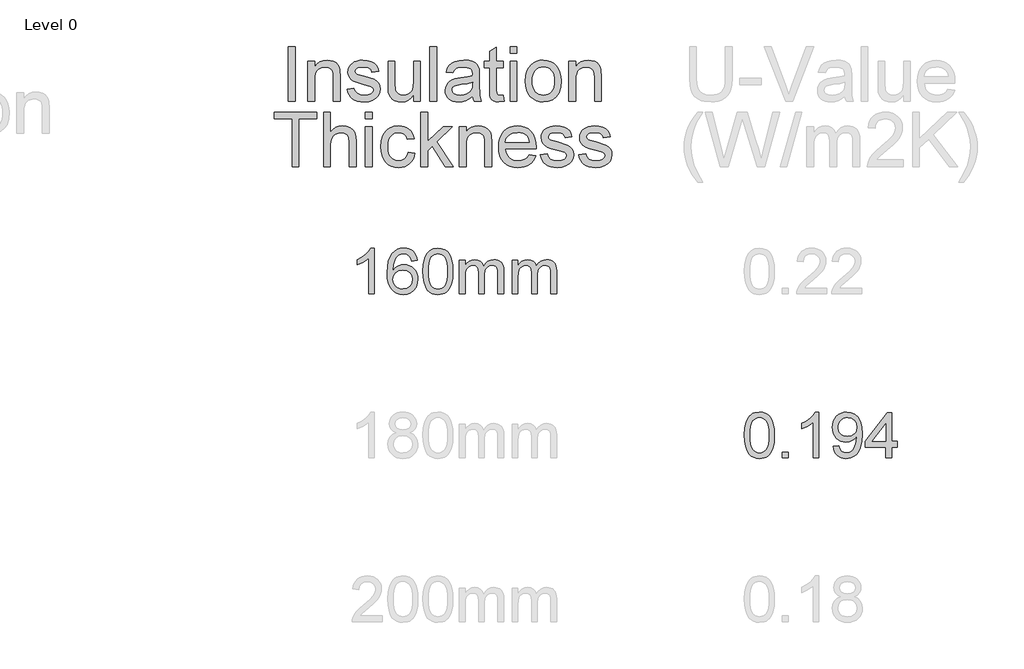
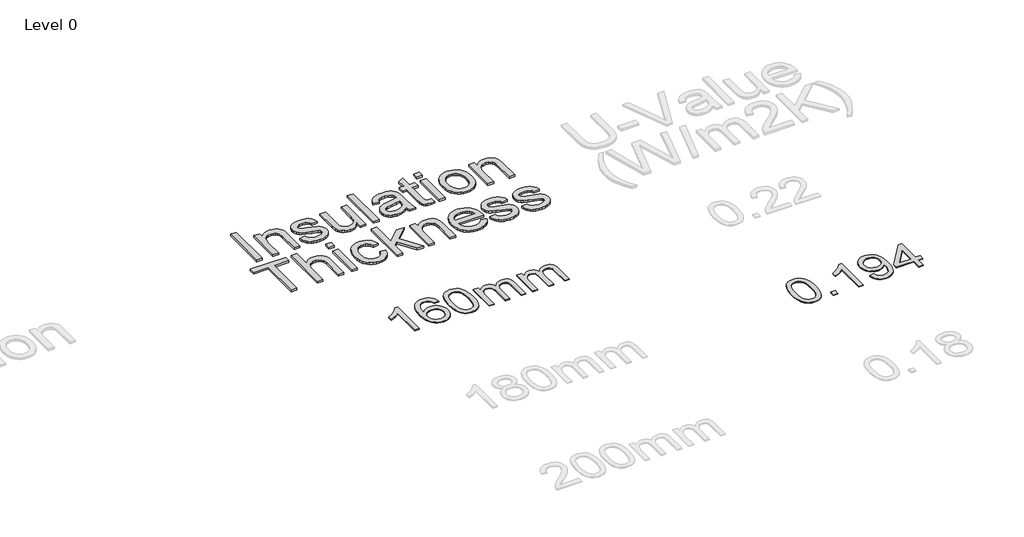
# One storey, part 10 of 11: 3 proxies.
"""IFC4 building model written with IfcOpenShell, lengths in millimetres."""

from ifc_helpers import new_model, si_unit, origin, origin_with_axes, place, context, project, spatial, polyline, outline, extrude, element, save

model = new_model("IFC4")

# Units and contexts
model_context = context("Model", 3, world=origin())
ifc_project = project(units=[si_unit("LENGTHUNIT", "METRE", prefix="MILLI")], contexts=[model_context])

# Site, building, storey
site = spatial("IfcSite", under=ifc_project)
building = spatial("IfcBuilding", under=site)
storey = spatial("IfcBuildingStorey", under=building, Name="Level 0", Elevation=0.0)

# Proxies
placement = place(None, origin())
element("IfcBuildingElementProxy", 1, Name="600mm Arial-400", ObjectType="600mm Arial-400", at=placement, inside=storey, context=model_context, shape_type="SweptSolid", body=[
    extrude(outline(polyline([(34413.7833472, 4261.9346906), (34363.5551921, 4261.9346906), (34363.5551921, 4575.0758449), (34342.5859184, 4558.1164849), (34315.9757874, 4541.1816504), (34263.0988819, 4515.8223182), (34263.0988819, 4563.303621), (34302.5480946, 4584.7634041), (34336.7243319, 4610.2944146), (34363.6655567, 4637.4441058), (34381.4097316, 4663.7599312), (34413.7833472, 4663.7599312), (34413.7833472, 4261.9346906)])), origin_with_axes(), (0.0, 0.0, 1.0), 8.0),
    extrude(outline(polyline([(34790.4945102, 4557.0251017), (34740.2663551, 4550.7465823), (34732.1729513, 4575.6399306), (34721.2345933, 4592.6360788), (34698.450435, 4608.3078518), (34670.9083363, 4613.5317761), (34647.5600924, 4610.4906183), (34625.5852745, 4601.3671448), (34606.7129282, 4582.1514419), (34591.2986726, 4555.7007265), (34580.8876121, 4518.2871276), (34577.0248512, 4466.1827743), (34597.1725218, 4489.6904338), (34621.3178434, 4506.2573863), (34648.1119154, 4516.0798356), (34676.2058371, 4519.3539854), (34700.3388959, 4517.1160365), (34722.6080194, 4510.4021901), (34743.0132074, 4499.2124461), (34761.5544599, 4483.5468045), (34776.9625842, 4464.337233), (34787.9683872, 4442.5156993), (34794.571869, 4418.0822034), (34796.7730296, 4391.0367454), (34792.6282258, 4355.070149), (34780.1938144, 4321.7277775), (34760.4998649, 4293.4499148), (34734.576447, 4272.6768449), (34703.600783, 4259.9113396), (34668.7500953, 4255.6561712), (34638.8075666, 4258.4765998), (34611.7651742, 4266.9378857), (34587.6229183, 4281.0400289), (34566.3807988, 4300.7830293), (34549.0627538, 4327.0007528), (34536.6927217, 4360.5270653), (34529.2707025, 4401.3619668), (34526.7966961, 4449.5054572), (34529.5435483, 4503.4798773), (34537.784105, 4549.5448344), (34551.5183662, 4587.7003287), (34570.7463318, 4617.9463601), (34591.5868468, 4637.9897974), (34615.7505625, 4652.3065384), (34643.2374789, 4660.896583), (34674.047596, 4663.7599312), (34697.1812421, 4661.9879662), (34718.119859, 4656.6720714), (34736.8634467, 4647.8122467), (34753.4120051, 4635.4084921), (34767.3179445, 4619.8777405), (34778.1336752, 4601.6369249), (34785.8591971, 4580.6860453), (34790.4945102, 4557.0251017)]), holes=[polyline([(34577.0248512, 4391.8215604), (34579.9311189, 4369.5646996), (34588.6499222, 4348.3133831), (34602.1879796, 4330.0419106), (34619.5520098, 4316.7245824), (34640.5090208, 4308.5943903), (34664.8260207, 4305.8843263), (34697.9721884, 4311.5006581), (34711.8873249, 4318.5210728), (34724.0304964, 4328.3496535), (34733.8805368, 4340.5878612), (34740.91628, 4354.8371571), (34746.5448745, 4389.3690137), (34740.9898564, 4422.5151815), (34734.0460837, 4436.1360124), (34724.324802, 4447.7886746), (34712.1448423, 4457.1236802), (34697.8250356, 4463.7915413), (34662.7658815, 4469.1258303), (34629.6687647, 4463.7915413), (34601.9917759, 4447.7886746), (34591.0687463, 4436.2892965), (34583.2665823, 4423.1283181), (34578.5852839, 4408.3057394), (34577.0248512, 4391.8215604)])]), origin_with_axes(), (0.0, 0.0, 1.0), 8.0),
    extrude(outline(polyline([(34840.7226653, 4459.6099493), (34844.413748, 4523.9279848), (34855.486996, 4575.2229977), (34873.8320449, 4614.2798028), (34885.6901078, 4629.5131831), (34899.3385299, 4641.8832152), (34914.8232962, 4651.4542785), (34932.190392, 4658.2907522), (34972.5715724, 4663.7599312), (35003.5227109, 4660.5225696), (35031.2364879, 4650.810485), (35054.4130536, 4635.0038219), (35071.7525583, 4613.4827252), (35084.8491573, 4586.4311358), (35095.297006, 4554.0329948), (35102.1396111, 4512.891525), (35104.4204794, 4459.6099493), (35100.766185, 4395.6597958), (35089.8033015, 4344.4874103), (35071.5686173, 4305.393817), (35059.7381454, 4290.1144514), (35046.0989205, 4277.68004), (35030.5957601, 4268.0445974), (35013.1734819, 4261.1621384), (34972.5715724, 4255.6561712), (34944.9068463, 4258.0474042), (34920.38138, 4265.2211031), (34898.9951733, 4277.1772679), (34880.7482264, 4293.9158987), (34863.2370434, 4324.1741928), (34850.7290556, 4361.8759659), (34843.2242629, 4407.0212181), (34840.7226653, 4459.6099493)]), holes=[polyline([(34890.9508204, 4459.7080512), (34892.4223484, 4416.0435241), (34896.8369323, 4380.6992614), (34904.1945722, 4353.6752631), (34914.4952681, 4334.9715294), (34926.954205, 4322.245878), (34940.786568, 4313.1561271), (34955.9923571, 4307.7022765), (34972.5715724, 4305.8843263), (34989.1507876, 4307.7084078), (35004.3565767, 4313.1806525), (35018.1889398, 4322.3010603), (35030.6478767, 4335.0696312), (35040.9485725, 4353.8040218), (35048.3062124, 4380.8218887), (35052.7207964, 4416.1232318), (35054.1923244, 4459.7080512), (35052.7698473, 4502.2168157), (35048.5024162, 4536.9387447), (35041.3900309, 4563.8738381), (35031.4326916, 4583.022096), (35019.1822212, 4596.370081), (35005.1904426, 4605.9043561), (34989.4573559, 4611.6249211), (34971.9829612, 4613.5317761), (34955.4895851, 4611.8517817), (34940.5413133, 4606.8117983), (34927.138146, 4598.4118261), (34915.280083, 4586.651865), (34904.6360306, 4565.8052186), (34897.033136, 4537.6990342), (34892.4713993, 4502.3333117), (34890.9508204, 4459.7080512)])]), origin_with_axes(), (0.0, 0.0, 1.0), 8.0),
    extrude(outline(polyline([(35160.9271539, 4261.9346906), (35160.9271539, 4557.0251017), (35211.155309, 4557.0251017), (35211.155309, 4508.4646783), (35226.2629962, 4530.7705899), (35245.6871656, 4548.2449847), (35268.7656294, 4559.538962), (35294.8362001, 4563.303621), (35322.7707063, 4559.4653856), (35345.1624571, 4547.9506791), (35361.8888251, 4529.5197912), (35372.8271831, 4504.9330111), (35391.1354437, 4530.470153), (35412.0188783, 4548.7109686), (35435.4774869, 4559.6554579), (35461.5112694, 4563.303621), (35481.6190861, 4561.7861078), (35499.2682249, 4557.2335681), (35514.4586856, 4549.646002), (35527.1904683, 4539.0234094), (35537.2551065, 4525.243163), (35544.4441339, 4508.1826354), (35548.7575503, 4487.8418268), (35550.1953557, 4464.220737), (35550.1953557, 4261.9346906), (35499.9672007, 4261.9346906), (35499.9672007, 4442.6383266), (35498.802241, 4467.6910905), (35495.307362, 4484.5768741), (35488.7590625, 4496.1406315), (35478.4338412, 4505.2273167), (35465.1533012, 4511.1134287), (35449.7390456, 4513.075466), (35422.5280407, 4508.0477454), (35400.3447564, 4492.9645836), (35391.7393834, 4481.3946948), (35385.5926884, 4466.795911), (35380.6753323, 4428.511658), (35380.6753323, 4261.9346906), (35330.4471773, 4261.9346906), (35330.4471773, 4448.2301329), (35327.5409095, 4476.630623), (35318.8221062, 4496.8886582), (35303.481427, 4509.028764), (35280.7095315, 4513.075466), (35261.3589386, 4510.3776647), (35243.5289245, 4502.2842608), (35228.8136447, 4488.991458), (35218.8072545, 4470.6954601), (35213.0682953, 4445.3116025), (35211.155309, 4410.7552204), (35211.155309, 4261.9346906), (35160.9271539, 4261.9346906)])), origin_with_axes(), (0.0, 0.0, 1.0), 8.0),
    extrude(outline(polyline([(35625.5375883, 4261.9346906), (35625.5375883, 4557.0251017), (35675.7657434, 4557.0251017), (35675.7657434, 4508.4646783), (35690.8734307, 4530.7705899), (35710.2976, 4548.2449847), (35733.3760639, 4559.538962), (35759.4466346, 4563.303621), (35787.3811408, 4559.4653856), (35809.7728915, 4547.9506791), (35826.4992596, 4529.5197912), (35837.4376176, 4504.9330111), (35855.7458782, 4530.470153), (35876.6293128, 4548.7109686), (35900.0879213, 4559.6554579), (35926.1217039, 4563.303621), (35946.2295206, 4561.7861078), (35963.8786593, 4557.2335681), (35979.06912, 4549.646002), (35991.8009027, 4539.0234094), (36001.865541, 4525.243163), (36009.0545683, 4508.1826354), (36013.3679847, 4487.8418268), (36014.8057902, 4464.220737), (36014.8057902, 4261.9346906), (35964.5776351, 4261.9346906), (35964.5776351, 4442.6383266), (35963.4126754, 4467.6910905), (35959.9177965, 4484.5768741), (35953.369497, 4496.1406315), (35943.0442756, 4505.2273167), (35929.7637356, 4511.1134287), (35914.34948, 4513.075466), (35887.1384751, 4508.0477454), (35864.9551908, 4492.9645836), (35856.3498178, 4481.3946948), (35850.2031228, 4466.795911), (35845.2857668, 4428.511658), (35845.2857668, 4261.9346906), (35795.0576117, 4261.9346906), (35795.0576117, 4448.2301329), (35792.151344, 4476.630623), (35783.4325407, 4496.8886582), (35768.0918615, 4509.028764), (35745.319966, 4513.075466), (35725.969373, 4510.3776647), (35708.139359, 4502.2842608), (35693.4240792, 4488.991458), (35683.4176889, 4470.6954601), (35677.6787298, 4445.3116025), (35675.7657434, 4410.7552204), (35675.7657434, 4261.9346906), (35625.5375883, 4261.9346906)])), origin_with_axes(), (0.0, 0.0, 1.0), 8.0),
])
element("IfcBuildingElementProxy", 2, Name="600mm Arial-400", ObjectType="600mm Arial-400", at=placement, inside=storey, context=model_context, shape_type="SweptSolid", body=[
    extrude(outline(polyline([(37665.4277656, 3019.6099493), (37669.1188483, 3083.9279848), (37680.1920964, 3135.2229977), (37698.5371452, 3174.2798028), (37710.3952082, 3189.5131831), (37724.0436302, 3201.8832152), (37739.5283965, 3211.4542785), (37756.8954924, 3218.2907522), (37797.2766727, 3223.7599312), (37828.2278112, 3220.5225696), (37855.9415882, 3210.810485), (37879.1181539, 3195.0038219), (37896.4576586, 3173.4827252), (37909.5542576, 3146.4311358), (37920.0021063, 3114.0329948), (37926.8447114, 3072.891525), (37929.1255798, 3019.6099493), (37925.4712853, 2955.6597958), (37914.5084018, 2904.4874103), (37896.2737176, 2865.393817), (37884.4432458, 2850.1144514), (37870.8040208, 2837.68004), (37855.3008604, 2828.0445974), (37837.8785822, 2821.1621384), (37797.2766727, 2815.6561712), (37769.6119467, 2818.0474042), (37745.0864803, 2825.2211031), (37723.7002737, 2837.1772679), (37705.4533267, 2853.9158987), (37687.9421437, 2884.1741928), (37675.4341559, 2921.8759659), (37667.9293632, 2967.0212181), (37665.4277656, 3019.6099493)]), holes=[polyline([(37715.6559207, 3019.7080512), (37717.1274487, 2976.0435241), (37721.5420326, 2940.6992614), (37728.8996725, 2913.6752631), (37739.2003684, 2894.9715294), (37751.6593053, 2882.245878), (37765.4916683, 2873.1561271), (37780.6974575, 2867.7022765), (37797.2766727, 2865.8843263), (37813.8558879, 2867.7084078), (37829.0616771, 2873.1806525), (37842.8940401, 2882.3010603), (37855.352977, 2895.0696312), (37865.6536729, 2913.8040218), (37873.0113128, 2940.8218887), (37877.4258967, 2976.1232318), (37878.8974247, 3019.7080512), (37877.4749476, 3062.2168157), (37873.2075165, 3096.9387447), (37866.0951313, 3123.8738381), (37856.1377919, 3143.022096), (37843.8873215, 3156.370081), (37829.8955429, 3165.9043561), (37814.1624563, 3171.6249211), (37796.6880615, 3173.5317761), (37780.1946854, 3171.8517817), (37765.2464137, 3166.8117983), (37751.8432463, 3158.4118261), (37739.9851833, 3146.651865), (37729.3411309, 3125.8052186), (37721.7382364, 3097.6990342), (37717.1764996, 3062.3333117), (37715.6559207, 3019.7080512)])]), origin_with_axes(), (0.0, 0.0, 1.0), 8.0),
    extrude(outline(polyline([(37998.189293, 2821.9346906), (37998.189293, 2872.1628457), (38048.4174481, 2872.1628457), (38048.4174481, 2821.9346906), (37998.189293, 2821.9346906)])), origin_with_axes(), (0.0, 0.0, 1.0), 8.0),
    extrude(outline(polyline([(38318.3937816, 2821.9346906), (38268.1656265, 2821.9346906), (38268.1656265, 3135.0758449), (38247.1963528, 3118.1164849), (38220.5862218, 3101.1816504), (38167.7093164, 3075.8223182), (38167.7093164, 3123.303621), (38207.158529, 3144.7634041), (38241.3347663, 3170.2944146), (38268.2759911, 3197.4441058), (38286.020166, 3223.7599312), (38318.3937816, 3223.7599312), (38318.3937816, 2821.9346906)])), origin_with_axes(), (0.0, 0.0, 1.0), 8.0),
    extrude(outline(polyline([(38443.9641693, 2922.3910007), (38494.1923244, 2928.6695201), (38502.7762376, 2900.1586655), (38516.7557534, 2880.7467589), (38535.7875153, 2869.5999344), (38559.5281667, 2865.8843263), (38580.8285342, 2868.2755593), (38600.1913899, 2875.4492582), (38616.2800958, 2886.6206081), (38627.7580141, 2901.0047941), (38644.1900765, 2944.6601242), (38649.6347301, 2973.0606142), (38651.4496146, 3002.9326322), (38651.155309, 3012.7428188), (38633.7544906, 2991.5037649), (38610.9825951, 2974.679295), (38584.4828287, 2963.7164115), (38555.8983977, 2960.062117), (38532.0381846, 2962.2939345), (38510.0970893, 2968.9893868), (38490.0751117, 2980.148474), (38471.9722519, 2995.771196), (38456.9718635, 3015.0420812), (38446.2573004, 3037.1456578), (38439.8285625, 3062.0819257), (38437.6856499, 3089.8508849), (38439.9327958, 3118.5456806), (38446.6742333, 3144.2974202), (38457.9099626, 3167.1061039), (38473.6399836, 3186.9717317), (38492.7545189, 3203.066569), (38514.1437912, 3214.5628813), (38537.8078006, 3221.4606687), (38563.7465469, 3223.7599312), (38601.2091968, 3218.5114814), (38635.3118577, 3202.766132), (38663.8349751, 3177.3086979), (38684.5589941, 3142.9239941), (38697.1773466, 3095.3936403), (38701.383464, 3030.4992564), (38697.1896093, 2961.6930606), (38684.6080451, 2908.5095868), (38663.7491359, 2868.5453394), (38650.2570638, 2852.6191147), (38634.7232465, 2839.3968226), (38617.4603839, 2829.0102876), (38598.7811756, 2821.5913341), (38557.1737219, 2815.6561712), (38534.6164243, 2817.4066764), (38514.2296304, 2822.6581918), (38496.0133402, 2831.4107177), (38479.9675539, 2843.6642538), (38466.4969415, 2859.0877064), (38456.0061733, 2877.3499818), (38448.4952492, 2898.4510799), (38443.9641693, 2922.3910007)]), holes=[polyline([(38651.155309, 3091.0281073), (38645.7351809, 3125.0694546), (38638.9600208, 3139.1470723), (38629.4747967, 3151.2626527), (38617.7454924, 3161.0053942), (38604.2380919, 3167.9644953), (38571.8890017, 3173.5317761), (38554.2797169, 3172.032657), (38538.3381638, 3167.5352996), (38524.0643424, 3160.0397039), (38511.4582527, 3149.54587), (38501.1575568, 3136.6669345), (38493.7999169, 3122.0160341), (38489.385333, 3105.5931687), (38487.913805, 3087.3983383), (38493.4810858, 3056.3613607), (38500.4401869, 3043.2433018), (38510.1829284, 3031.7255297), (38522.3046402, 3022.3476045), (38536.4006519, 3015.6490865), (38570.5155756, 3010.2902721), (38602.6071483, 3015.6490865), (38628.4447271, 3031.7255297), (38638.3806067, 3043.4701624), (38645.4776635, 3057.2688029), (38651.155309, 3091.0281073)])]), origin_with_axes(), (0.0, 0.0, 1.0), 8.0),
    extrude(outline(polyline([(38908.5746037, 2821.9346906), (38908.5746037, 2916.1124814), (38726.4975416, 2916.1124814), (38726.4975416, 2966.3406364), (38921.1316425, 3217.4814118), (38958.8027588, 3217.4814118), (38958.8027588, 2966.3406364), (39009.0309139, 2966.3406364), (39009.0309139, 2916.1124814), (38958.8027588, 2916.1124814), (38958.8027588, 2821.9346906), (38908.5746037, 2821.9346906)]), holes=[polyline([(38908.5746037, 2966.3406364), (38908.5746037, 3121.5377875), (38788.3017168, 2966.3406364), (38908.5746037, 2966.3406364)])]), origin_with_axes(), (0.0, 0.0, 1.0), 8.0),
])
element("IfcBuildingElementProxy", 3, Name="Arial-500 Blanco", ObjectType="Arial-500 Blanco", at=placement, inside=storey, context=model_context, shape_type="SweptSolid", body=[
    extrude(outline(polyline([(33657.5631659, 5955.3857513), (33657.5631659, 6435.0189703), (33717.5173183, 6435.0189703), (33717.5173183, 5955.3857513), (33657.5631659, 5955.3857513)])), origin_with_axes(), (0.0, 0.0, 1.0), 20.0),
    extrude(outline(polyline([(33829.931354, 5955.3857513), (33829.931354, 6307.6163965), (33889.8855064, 6307.6163965), (33889.8855064, 6258.4352559), (33910.7143049, 6283.2307476), (33935.7293553, 6300.9418131), (33964.9306576, 6311.5684525), (33998.3182117, 6315.1106656), (34027.8708078, 6312.2564029), (34054.9350723, 6303.6936151), (34077.5057029, 6290.4908208), (34093.5773971, 6273.7165389), (34104.4821441, 6253.4146811), (34111.551933, 6229.6291592), (34114.7135778, 6171.6656721), (34114.7135778, 5955.3857513), (34054.7594254, 5955.3857513), (34054.7594254, 6163.5859133), (34053.0322306, 6194.5875965), (34047.8506461, 6216.6312864), (34038.2925256, 6232.4248729), (34023.4357228, 6244.6762463), (34004.392668, 6252.5364465), (33982.275792, 6255.1565132), (33947.1610431, 6249.272341), (33931.5467628, 6241.9171258), (33917.2278786, 6231.6198245), (33905.2655908, 6217.2094575), (33896.7210994, 6197.5150454), (33891.5944046, 6172.5365881), (33889.8855064, 6142.2740857), (33889.8855064, 5955.3857513), (33829.931354, 5955.3857513)])), origin_with_axes(), (0.0, 0.0, 1.0), 20.0),
    extrude(outline(polyline([(34174.6677302, 6060.305518), (34234.6218825, 6067.799787), (34244.0775423, 6042.1553351), (34262.3740976, 6023.3025645), (34289.6286464, 6011.7098671), (34325.9582865, 6007.8456346), (34361.8488094, 6011.3878477), (34387.0834185, 6022.014487), (34402.0134076, 6037.412868), (34406.9900706, 6055.2703059), (34401.9841331, 6070.5515889), (34386.9663205, 6082.2028353), (34325.2556988, 6099.2991366), (34270.5416799, 6115.1219976), (34234.9731764, 6128.632174), (34212.1244382, 6143.371879), (34195.5697149, 6162.8833255), (34185.5139281, 6185.922348), (34182.1619992, 6211.2447805), (34184.8552521, 6234.4740871), (34192.935011, 6255.9176499), (34205.6694134, 6274.7265087), (34222.3265974, 6290.0517034), (34238.8813206, 6299.6976474), (34260.4419814, 6307.7920434), (34285.3692083, 6313.28101), (34312.02363, 6315.1106656), (34351.0465232, 6312.1685795), (34384.9756553, 6303.3423212), (34412.2594785, 6289.4954881), (34431.346445, 6271.4916777), (34443.993024, 6247.9989007), (34451.9556849, 6217.6851679), (34392.0015325, 6210.1908989), (34384.4340773, 6229.0583067), (34369.4601764, 6243.2710709), (34346.9334575, 6252.1851526), (34316.7075482, 6255.1565132), (34282.2807498, 6252.3168878), (34259.3295508, 6243.7980117), (34246.4195014, 6231.5027265), (34242.1161516, 6217.3338741), (34243.9018954, 6208.1124102), (34249.2591268, 6199.886279), (34258.4220417, 6192.5383824), (34271.624836, 6186.6542102), (34323.2650336, 6173.8905332), (34411.2641459, 6145.6699263), (34434.5080898, 6132.1743871), (34452.1313318, 6113.7021849), (34463.2410002, 6090.1947707), (34466.944223, 6061.5935955), (34462.5969615, 6032.0263621), (34449.5551768, 6004.2155981), (34428.3165355, 5980.3422527), (34399.3787036, 5962.5872755), (34364.4249644, 5951.5654306), (34325.1386009, 5947.8914823), (34292.870796, 5949.6625888), (34264.6867822, 5954.9759085), (34240.5865596, 5963.8314412), (34220.5701281, 5976.2291871), (34204.2203263, 5992.1105971), (34191.1199927, 6011.4171222), (34181.2691273, 6034.1487625), (34174.6677302, 6060.305518)])), origin_with_axes(), (0.0, 0.0, 1.0), 20.0),
    extrude(outline(polyline([(34759.2207158, 5955.3857513), (34759.2207158, 6015.9253934), (34737.5283199, 5986.1605573), (34712.2644363, 5964.8999601), (34683.4290652, 5952.1436017), (34651.0222065, 5947.8914823), (34621.8209042, 5950.8774801), (34594.6395417, 5959.8354735), (34571.8347152, 5973.3017382), (34555.763021, 5989.8125497), (34544.9460975, 6009.8655743), (34537.905583, 6033.9584783), (34534.3926444, 6089.6971044), (34534.3926444, 6307.6163965), (34594.3467968, 6307.6163965), (34594.3467968, 6117.9177113), (34597.9768334, 6056.7925793), (34606.7152682, 6036.4028981), (34621.689169, 6020.9020565), (34641.9032033, 6011.1097401), (34666.3620384, 6007.8456346), (34692.226049, 6011.1829263), (34716.4214137, 6021.1948014), (34736.3719776, 6036.9591134), (34749.5015857, 6057.553716), (34756.7909333, 6085.7596857), (34759.2207158, 6124.3580987), (34759.2207158, 6307.6163965), (34819.1748682, 6307.6163965), (34819.1748682, 5955.3857513), (34759.2207158, 5955.3857513)])), origin_with_axes(), (0.0, 0.0, 1.0), 20.0),
    extrude(outline(polyline([(34901.6118277, 5955.3857513), (34901.6118277, 6435.0189703), (34961.5659801, 6435.0189703), (34961.5659801, 5955.3857513), (34901.6118277, 5955.3857513)])), origin_with_axes(), (0.0, 0.0, 1.0), 20.0),
    extrude(outline(polyline([(35276.3252801, 6000.3513656), (35247.6801931, 5975.7900698), (35218.186146, 5959.7183756), (35187.1698254, 5950.8482056), (35153.9579183, 5947.8914823), (35127.2632441, 5949.6699074), (35103.8546313, 5955.005183), (35083.7320798, 5963.8973088), (35066.8955896, 5976.346285), (35053.6013125, 5991.5617004), (35044.1054003, 6008.7531438), (35038.407853, 6027.9206151), (35036.5086706, 6049.0641144), (35039.3775704, 6073.9181551), (35047.98427, 6096.4887857), (35061.2602506, 6115.8099481), (35078.1369932, 6130.9155841), (35097.9704591, 6142.3326346), (35120.1166096, 6150.5880404), (35171.9910032, 6159.6045828), (35233.291782, 6169.0895171), (35275.9739862, 6180.2138227), (35276.3252801, 6193.5629894), (35272.1975772, 6220.3198719), (35259.8144686, 6237.826016), (35232.1208025, 6250.8238889), (35193.5370267, 6255.1565132), (35157.8221508, 6252.2729761), (35132.8802866, 6243.6223647), (35115.8718088, 6227.6238568), (35103.957092, 6202.6966299), (35044.0029396, 6210.1908989), (35054.4100203, 6242.978326), (35069.9401364, 6268.7398758), (35092.0423752, 6288.4416066), (35122.1658238, 6303.0495763), (35159.0077675, 6312.0953932), (35201.2654916, 6315.1106656), (35241.7960209, 6312.4466871), (35273.924772, 6304.4547518), (35298.1494112, 6292.4375742), (35314.9676048, 6277.6978693), (35326.1211849, 6259.4745002), (35333.3519836, 6237.0063303), (35336.2794324, 6184.546447), (35336.2794324, 6109.9550504), (35339.3239792, 6005.7964204), (35351.2679705, 5955.3857513), (35291.3138182, 5955.3857513), (35281.7117859, 5976.2291871), (35276.3252801, 6000.3513656)]), holes=[polyline([(35276.3252801, 6120.2596703), (35236.0435839, 6110.2770698), (35179.6023702, 6101.8752916), (35128.0207215, 6092.1561614), (35114.5983685, 6085.5108525), (35104.6596797, 6076.3479376), (35098.5120371, 6065.3700045), (35096.4628229, 6053.2796407), (35100.9271824, 6035.4514773), (35114.3202609, 6020.8435075), (35136.3493135, 6011.0951028), (35166.7215953, 6007.8456346), (35198.9235326, 6011.4317595), (35227.3783354, 6022.190134), (35250.4466323, 6038.0422695), (35266.4890519, 6056.9096773), (35273.6027526, 6076.3479376), (35275.9739862, 6103.280467), (35276.3252801, 6120.2596703)])]), origin_with_axes(), (0.0, 0.0, 1.0), 20.0),
    extrude(outline(polyline([(35546.1189658, 6005.3865776), (35553.6132348, 5953.629282), (35508.7647185, 5947.8914823), (35479.9878963, 5950.3798138), (35458.5296963, 5957.8448083), (35443.3655112, 5969.3496823), (35433.4707341, 5983.957652), (35428.0256793, 6009.0458887), (35426.210661, 6051.9915632), (35426.210661, 6247.6622441), (35381.2450467, 6247.6622441), (35381.2450467, 6307.6163965), (35426.210661, 6307.6163965), (35426.210661, 6393.2150008), (35486.1648134, 6428.4614849), (35486.1648134, 6307.6163965), (35546.1189658, 6307.6163965), (35546.1189658, 6247.6622441), (35486.1648134, 6247.6622441), (35486.1648134, 6053.7480325), (35489.3264581, 6022.8341727), (35499.5725291, 6011.885514), (35520.006122, 6007.8456346), (35546.1189658, 6005.3865776)])), origin_with_axes(), (0.0, 0.0, 1.0), 20.0),
    extrude(outline(polyline([(35606.0731181, 6375.0648179), (35606.0731181, 6435.0189703), (35666.0272705, 6435.0189703), (35666.0272705, 6375.0648179), (35606.0731181, 6375.0648179)])), origin_with_axes(), (0.0, 0.0, 1.0), 20.0),
    extrude(outline(polyline([(35606.0731181, 5955.3857513), (35606.0731181, 6307.6163965), (35666.0272705, 6307.6163965), (35666.0272705, 5955.3857513), (35606.0731181, 5955.3857513)])), origin_with_axes(), (0.0, 0.0, 1.0), 20.0),
    extrude(outline(polyline([(35740.969961, 6131.5010739), (35744.2121106, 6177.1180456), (35753.9385594, 6216.4263649), (35770.1493074, 6249.4260321), (35792.8443545, 6276.1170469), (35815.6930928, 6293.1767551), (35840.9130646, 6305.3622609), (35868.50427, 6312.6735644), (35898.4667089, 6315.1106656), (35931.5432216, 6312.1429643), (35961.4507708, 6303.2398605), (35988.1893567, 6288.4013541), (36011.7589793, 6267.6274453), (36030.9959775, 6241.6207216), (36044.7366905, 6211.0837708), (36052.9811183, 6176.0165929), (36055.7292609, 6136.419188), (36050.8696959, 6075.8502713), (36044.7952395, 6050.988912), (36036.2910006, 6029.742952), (36012.4176553, 5995.2136929), (35979.6741399, 5969.3789568), (35940.782982, 5953.2633509), (35898.4667089, 5947.8914823), (35864.9071672, 5950.8482056), (35834.7215103, 5959.7183756), (35807.9097382, 5974.5019923), (35784.4718508, 5995.1990556), (35765.439774, 6021.4582718), (35751.8454334, 6052.9283469), (35743.6888291, 6089.6092809), (35740.969961, 6131.5010739)]), holes=[polyline([(35800.9241134, 6131.6181719), (35802.6586268, 6102.5376269), (35807.8621671, 6077.3579075), (35816.5347343, 6056.0790137), (35828.6763284, 6038.7009455), (35843.4453078, 6025.201747), (35860.0000311, 6015.5594623), (35878.3404981, 6009.7740916), (35898.4667089, 6007.8456346), (35918.490459, 6009.7850695), (35936.7577398, 6015.6033741), (35953.2685513, 6025.3005484), (35968.0228935, 6038.8765924), (35980.1644876, 6056.4266482), (35988.8370548, 6078.045858), (35994.0405951, 6103.7342216), (35995.7751086, 6133.4917391), (35994.0296172, 6161.6501377), (35988.7931431, 6186.1711811), (35980.0656862, 6207.0548693), (35967.8472466, 6224.3012023), (35953.0380147, 6237.8004008), (35936.5381812, 6247.4426855), (35918.3477459, 6253.2280563), (35898.4667089, 6255.1565132), (35878.3404981, 6253.2353749), (35860.0000311, 6247.47196), (35843.4453078, 6237.8662684), (35828.6763284, 6224.4183003), (35816.5347343, 6207.0914624), (35807.8621671, 6185.8491617), (35802.6586268, 6160.6913982), (35800.9241134, 6131.6181719)])]), origin_with_axes(), (0.0, 0.0, 1.0), 20.0),
    extrude(outline(polyline([(36123.1776824, 5955.3857513), (36123.1776824, 6307.6163965), (36183.1318347, 6307.6163965), (36183.1318347, 6258.4352559), (36203.9606333, 6283.2307476), (36228.9756837, 6300.9418131), (36258.1769859, 6311.5684525), (36291.56454, 6315.1106656), (36321.1171361, 6312.2564029), (36348.1814007, 6303.6936151), (36370.7520313, 6290.4908208), (36386.8237255, 6273.7165389), (36397.7284724, 6253.4146811), (36404.7982614, 6229.6291592), (36407.9599062, 6171.6656721), (36407.9599062, 5955.3857513), (36348.0057538, 5955.3857513), (36348.0057538, 6163.5859133), (36346.278559, 6194.5875965), (36341.0969745, 6216.6312864), (36331.538854, 6232.4248729), (36316.6820511, 6244.6762463), (36297.6389964, 6252.5364465), (36275.5221203, 6255.1565132), (36240.4073714, 6249.272341), (36224.7930911, 6241.9171258), (36210.474207, 6231.6198245), (36198.5119191, 6217.2094575), (36189.9674278, 6197.5150454), (36184.840733, 6172.5365881), (36183.1318347, 6142.2740857), (36183.1318347, 5955.3857513), (36123.1776824, 5955.3857513)])), origin_with_axes(), (0.0, 0.0, 1.0), 20.0),
    extrude(outline(polyline([(33691.2873766, 5378.9248626), (33691.2873766, 5798.6039292), (33533.9077266, 5798.6039292), (33533.9077266, 5858.5580816), (33908.621179, 5858.5580816), (33908.621179, 5798.6039292), (33751.241529, 5798.6039292), (33751.241529, 5378.9248626), (33691.2873766, 5378.9248626)])), origin_with_axes(), (0.0, 0.0, 1.0), 20.0),
    extrude(outline(polyline([(33968.5753314, 5378.9248626), (33968.5753314, 5858.5580816), (34028.5294837, 5858.5580816), (34028.5294837, 5682.2085631), (34050.5512177, 5706.9015941), (34075.2808418, 5724.5394734), (34102.7183561, 5735.122201), (34132.8637606, 5738.6497768), (34169.0763029, 5734.8001816), (34200.1950841, 5723.2513959), (34224.6978309, 5704.9109289), (34241.06227, 5680.6862897), (34250.2837339, 5647.4011963), (34253.3575552, 5601.8793667), (34253.3575552, 5378.9248626), (34193.4034028, 5378.9248626), (34193.4034028, 5595.6731752), (34188.6316612, 5633.2030694), (34182.6669841, 5647.5329315), (34174.3164363, 5658.9060703), (34151.2481394, 5673.7482359), (34120.2171816, 5678.6956245), (34094.8801119, 5675.3583328), (34071.09459, 5665.3464577), (34051.3928592, 5649.6260574), (34038.3071629, 5629.16319), (34030.9739035, 5601.9671902), (34028.5294837, 5566.0473928), (34028.5294837, 5378.9248626), (33968.5753314, 5378.9248626)])), origin_with_axes(), (0.0, 0.0, 1.0), 20.0),
    extrude(outline(polyline([(34335.7945147, 5798.6039292), (34335.7945147, 5858.5580816), (34395.748667, 5858.5580816), (34395.748667, 5798.6039292), (34335.7945147, 5798.6039292)])), origin_with_axes(), (0.0, 0.0, 1.0), 20.0),
    extrude(outline(polyline([(34335.7945147, 5378.9248626), (34335.7945147, 5731.1555078), (34395.748667, 5731.1555078), (34395.748667, 5378.9248626), (34335.7945147, 5378.9248626)])), origin_with_axes(), (0.0, 0.0, 1.0), 20.0),
    extrude(outline(polyline([(34710.507967, 5506.3274364), (34770.4621194, 5498.8331673), (34763.9412271, 5470.5430335), (34753.7463865, 5445.5096866), (34739.8775976, 5423.7331265), (34722.3348604, 5405.2133532), (34701.8573557, 5390.4333959), (34679.1842644, 5379.8762835), (34654.3155864, 5373.542016), (34627.2513218, 5371.4305935), (34593.6259125, 5374.3763389), (34563.4768487, 5383.2135751), (34536.8041304, 5397.9423021), (34513.6077576, 5418.56252), (34494.8318326, 5444.6863416), (34481.4204575, 5475.9258801), (34473.3736325, 5512.2811355), (34470.6913575, 5553.7521077), (34475.272815, 5607.1048629), (34489.0171873, 5653.3439174), (34499.3803562, 5673.349371), (34512.1440332, 5690.6835275), (34527.3082182, 5705.3463869), (34544.8729113, 5717.3379492), (34584.0275396, 5733.3218199), (34626.4316361, 5738.6497768), (34653.0311682, 5736.8201213), (34677.0911384, 5731.3311547), (34698.6115468, 5722.1828771), (34717.5923932, 5709.3752884), (34733.7116584, 5693.2011335), (34746.647323, 5673.9531573), (34756.399387, 5651.6313599), (34762.9678503, 5626.2357411), (34703.013698, 5618.7414721), (34692.1382255, 5644.8982275), (34675.2029339, 5663.6485374), (34653.1446069, 5674.9338527), (34626.900028, 5678.6956245), (34606.5286433, 5676.8440131), (34588.1552425, 5671.2891789), (34571.7798255, 5662.0311219), (34557.4023923, 5649.0698421), (34545.6962563, 5632.1052761), (34537.3347305, 5610.8373602), (34532.317815, 5585.2660945), (34530.6455099, 5555.391479), (34532.2812219, 5525.0667683), (34537.1883581, 5499.1990984), (34545.3669183, 5477.7884694), (34556.8169026, 5460.8348813), (34570.9089095, 5447.9504471), (34587.0135374, 5438.7472798), (34605.1307865, 5433.2253794), (34625.2606566, 5431.3847459), (34656.3062516, 5435.9808406), (34681.7604193, 5449.7691247), (34700.2765333, 5473.100892), (34710.507967, 5506.3274364)])), origin_with_axes(), (0.0, 0.0, 1.0), 20.0),
    extrude(outline(polyline([(34822.9220027, 5378.9248626), (34822.9220027, 5858.5580816), (34882.8761551, 5858.5580816), (34882.8761551, 5600.8254851), (35017.3046061, 5731.1555078), (35100.2099575, 5731.1555078), (34964.0250371, 5599.1861138), (35107.7042265, 5378.9248626), (35037.6796501, 5378.9248626), (34921.0500881, 5557.4992422), (34882.8761551, 5520.3791908), (34882.8761551, 5378.9248626), (34822.9220027, 5378.9248626)])), origin_with_axes(), (0.0, 0.0, 1.0), 20.0),
    extrude(outline(polyline([(35160.1641098, 5378.9248626), (35160.1641098, 5731.1555078), (35220.1182622, 5731.1555078), (35220.1182622, 5681.9743672), (35240.9470608, 5706.7698589), (35265.9621111, 5724.4809244), (35295.1634134, 5735.1075637), (35328.5509675, 5738.6497768), (35358.1035636, 5735.7955142), (35385.1678282, 5727.2327263), (35407.7384588, 5714.029932), (35423.8101529, 5697.2556501), (35434.7148999, 5676.9537924), (35441.7846889, 5653.1682705), (35444.9463336, 5595.2047834), (35444.9463336, 5378.9248626), (35384.9921812, 5378.9248626), (35384.9921812, 5587.1250245), (35383.2649864, 5618.1267078), (35378.083402, 5640.1703976), (35368.5252815, 5655.9639842), (35353.6684786, 5668.2153576), (35334.6254238, 5676.0755577), (35312.5085478, 5678.6956245), (35277.3937989, 5672.8114523), (35261.7795186, 5665.456237), (35247.4606344, 5655.1589357), (35235.4983466, 5640.7485688), (35226.9538553, 5621.0541567), (35221.8271605, 5596.0756994), (35220.1182622, 5565.8131969), (35220.1182622, 5378.9248626), (35160.1641098, 5378.9248626)])), origin_with_axes(), (0.0, 0.0, 1.0), 20.0),
    extrude(outline(polyline([(35773.991584, 5483.8446292), (35832.7747568, 5476.3503602), (35823.7618737, 5452.8063528), (35811.5946644, 5432.0580591), (35796.273129, 5414.1054791), (35777.7972675, 5398.9486127), (35756.357364, 5386.9094793), (35732.1437027, 5378.3100983), (35705.1562837, 5373.1504697), (35675.3951068, 5371.4305935), (35638.1945506, 5374.3982948), (35605.048511, 5383.3013986), (35575.9569881, 5398.1399049), (35550.9199819, 5418.9138138), (35530.7864524, 5445.0449541), (35516.40536, 5475.9551546), (35507.7767045, 5511.6444153), (35504.900486, 5552.1127363), (35507.805979, 5593.953299), (35516.5224579, 5630.8318358), (35531.0499228, 5662.7483469), (35551.3883737, 5689.7028321), (35576.3595123, 5711.1171204), (35604.7850406, 5726.4130407), (35636.6649586, 5735.5905928), (35671.9992662, 5738.6497768), (35706.195528, 5735.5979114), (35737.1203657, 5726.4423151), (35764.7737794, 5711.182988), (35789.155769, 5689.8199301), (35809.0587618, 5662.9239938), (35823.2751853, 5631.0660317), (35831.8050394, 5594.2460439), (35834.6483241, 5552.4640302), (35834.2970302, 5536.3045126), (35564.8546384, 5536.3045126), (35568.3273246, 5512.3799369), (35575.2324445, 5491.4267217), (35585.5699983, 5473.4448672), (35599.3399858, 5458.4343732), (35615.7812704, 5446.6001613), (35634.1327153, 5438.1471527), (35654.3943207, 5433.0753476), (35676.5660864, 5431.3847459), (35708.4752788, 5434.5171162), (35735.3492592, 5443.914227), (35757.1880276, 5460.1615681), (35773.991584, 5483.8446292)]), holes=[polyline([(35564.8546384, 5596.2586649), (35774.6941717, 5596.2586649), (35766.5851384, 5627.9336615), (35750.6890911, 5650.5921155), (35734.3392893, 5662.8874007), (35715.7353519, 5671.6697472), (35694.8772789, 5676.9391551), (35671.7650702, 5678.6956245), (35631.3516389, 5673.0895599), (35613.7686493, 5666.0819792), (35597.9348103, 5656.2713663), (35584.6478519, 5644.1114756), (35574.7055037, 5630.0560619), (35568.1077659, 5614.105125), (35564.8546384, 5596.2586649)])]), origin_with_axes(), (0.0, 0.0, 1.0), 20.0),
    extrude(outline(polyline([(35872.1196693, 5483.8446292), (35932.0738217, 5491.3388983), (35941.5294814, 5465.6944464), (35959.8260367, 5446.8416758), (35987.0805855, 5435.2489784), (36023.4102257, 5431.3847459), (36059.3007485, 5434.926959), (36084.5353576, 5445.5535983), (36099.4653467, 5460.9519793), (36104.4420098, 5478.8094172), (36099.4360722, 5494.0907002), (36084.4182596, 5505.7419466), (36022.707638, 5522.8382479), (35967.993619, 5538.6611089), (35932.4251155, 5552.1712853), (35909.5763773, 5566.9109903), (35893.0216541, 5586.4224368), (35882.9658673, 5609.4614592), (35879.6139383, 5634.7838918), (35882.3071913, 5658.0131984), (35890.3869501, 5679.4567612), (35903.1213526, 5698.26562), (35919.7785365, 5713.5908147), (35936.3332597, 5723.2367587), (35957.8939205, 5731.3311547), (35982.8211474, 5736.8201213), (36009.4755692, 5738.6497768), (36048.4984623, 5735.7076907), (36082.4275944, 5726.8814325), (36109.7114177, 5713.0345994), (36128.7983842, 5695.030789), (36141.4449632, 5671.538012), (36149.407624, 5641.2242792), (36089.4534717, 5633.7300102), (36081.8860164, 5652.597418), (36066.9121155, 5666.8101821), (36044.3853967, 5675.7242639), (36014.1594873, 5678.6956245), (35979.7326889, 5675.8559991), (35956.7814899, 5667.3371229), (35943.8714405, 5655.0418378), (35939.5680907, 5640.8729854), (35941.3538345, 5631.6515215), (35946.7110659, 5623.4253902), (35955.8739808, 5616.0774936), (35969.0767751, 5610.1933214), (36020.7169727, 5597.4296445), (36108.7160851, 5569.2090376), (36131.9600289, 5555.7134984), (36149.583271, 5537.2412962), (36160.6929393, 5513.733882), (36164.3961621, 5485.1327067), (36160.0489006, 5455.5654734), (36147.007116, 5427.7547093), (36125.7684746, 5403.881364), (36096.8306428, 5386.1263867), (36061.8769035, 5375.1045418), (36022.59054, 5371.4305935), (35990.3227351, 5373.2017001), (35962.1387213, 5378.5150197), (35938.0384987, 5387.3705525), (35918.0220672, 5399.7682984), (35901.6722654, 5415.6497084), (35888.5719318, 5434.9562335), (35878.7210664, 5457.6878738), (35872.1196693, 5483.8446292)])), origin_with_axes(), (0.0, 0.0, 1.0), 20.0),
    extrude(outline(polyline([(36209.3617764, 5483.8446292), (36269.3159288, 5491.3388983), (36278.7715886, 5465.6944464), (36297.0681439, 5446.8416758), (36324.3226926, 5435.2489784), (36360.6523328, 5431.3847459), (36396.5428557, 5434.926959), (36421.7774647, 5445.5535983), (36436.7074538, 5460.9519793), (36441.6841169, 5478.8094172), (36436.6781793, 5494.0907002), (36421.6603668, 5505.7419466), (36359.9497451, 5522.8382479), (36305.2357261, 5538.6611089), (36269.6672226, 5552.1712853), (36246.8184844, 5566.9109903), (36230.2637612, 5586.4224368), (36220.2079744, 5609.4614592), (36216.8560455, 5634.7838918), (36219.5492984, 5658.0131984), (36227.6290572, 5679.4567612), (36240.3634597, 5698.26562), (36257.0206436, 5713.5908147), (36273.5753669, 5723.2367587), (36295.1360276, 5731.3311547), (36320.0632545, 5736.8201213), (36346.7176763, 5738.6497768), (36385.7405694, 5735.7076907), (36419.6697015, 5726.8814325), (36446.9535248, 5713.0345994), (36466.0404913, 5695.030789), (36478.6870703, 5671.538012), (36486.6497311, 5641.2242792), (36426.6955788, 5633.7300102), (36419.1281235, 5652.597418), (36404.1542227, 5666.8101821), (36381.6275038, 5675.7242639), (36351.4015944, 5678.6956245), (36316.974796, 5675.8559991), (36294.0235971, 5667.3371229), (36281.1135476, 5655.0418378), (36276.8101978, 5640.8729854), (36278.5959416, 5631.6515215), (36283.953173, 5623.4253902), (36293.1160879, 5616.0774936), (36306.3188822, 5610.1933214), (36357.9590799, 5597.4296445), (36445.9581922, 5569.2090376), (36469.202136, 5555.7134984), (36486.8253781, 5537.2412962), (36497.9350465, 5513.733882), (36501.6382692, 5485.1327067), (36497.2910077, 5455.5654734), (36484.2492231, 5427.7547093), (36463.0105817, 5403.881364), (36434.0727499, 5386.1263867), (36399.1190106, 5375.1045418), (36359.8326471, 5371.4305935), (36327.5648422, 5373.2017001), (36299.3808284, 5378.5150197), (36275.2806058, 5387.3705525), (36255.2641743, 5399.7682984), (36238.9143725, 5415.6497084), (36225.8140389, 5434.9562335), (36215.9631736, 5457.6878738), (36209.3617764, 5483.8446292)])), origin_with_axes(), (0.0, 0.0, 1.0), 20.0),
])

save(model, "model.ifc")
